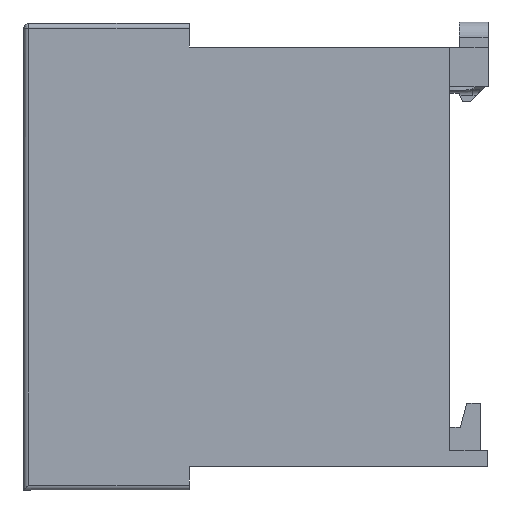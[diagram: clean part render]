
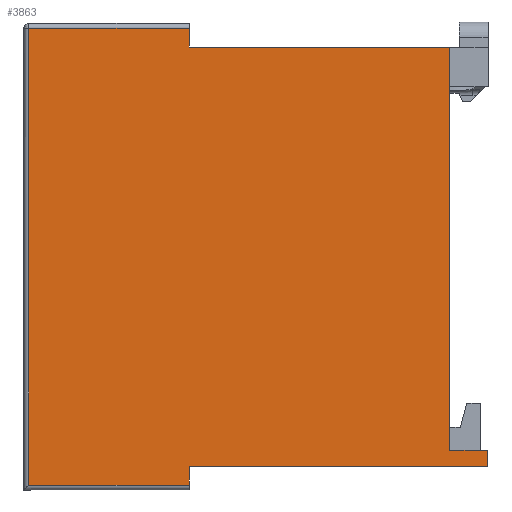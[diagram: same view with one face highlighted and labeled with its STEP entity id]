
A CAD part, left-side view. The second image highlights one B-rep face of the part: STEP entity #3863.
In plain terms, the highlighted planar face has unit normal (-1, 0, 0).
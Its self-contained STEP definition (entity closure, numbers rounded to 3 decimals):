
#169 = VECTOR ( 'NONE', #2971, 1000. ) ;
#378 = VERTEX_POINT ( 'NONE', #7387 ) ;
#460 = ORIENTED_EDGE ( 'NONE', *, *, #7679, .F. ) ;
#563 = LINE ( 'NONE', #1981, #3993 ) ;
#598 = ORIENTED_EDGE ( 'NONE', *, *, #1237, .F. ) ;
#699 = ORIENTED_EDGE ( 'NONE', *, *, #7192, .F. ) ;
#816 = VERTEX_POINT ( 'NONE', #6275 ) ;
#1005 = EDGE_LOOP ( 'NONE', ( #6417, #6036, #598, #2833, #5478, #7030, #460, #699, #7599, #6785 ) ) ;
#1083 = FACE_OUTER_BOUND ( 'NONE', #1005, .T. ) ;
#1237 = EDGE_CURVE ( 'NONE', #4079, #5180, #4899, .T. ) ;
#1260 = VECTOR ( 'NONE', #4289, 1000. ) ;
#1394 = DIRECTION ( 'NONE',  ( 0., 0., -1. ) ) ;
#1404 = DIRECTION ( 'NONE',  ( 1., 0., 0. ) ) ;
#1415 = CARTESIAN_POINT ( 'NONE',  ( -22.5, 17.609, -0.434 ) ) ;
#1420 = PLANE ( 'NONE',  #7845 ) ;
#1457 = VECTOR ( 'NONE', #4681, 1000. ) ;
#1709 = DIRECTION ( 'NONE',  ( 0., -1., 0. ) ) ;
#1790 = CARTESIAN_POINT ( 'NONE',  ( -22.5, 27.068, 21.65 ) ) ;
#1851 = VERTEX_POINT ( 'NONE', #4320 ) ;
#1880 = LINE ( 'NONE', #2991, #169 ) ;
#1968 = DIRECTION ( 'NONE',  ( 0., -1., 0. ) ) ;
#1975 = DIRECTION ( 'NONE',  ( 0., 1., 0. ) ) ;
#1977 = CARTESIAN_POINT ( 'NONE',  ( -22.5, 17.609, -23.9 ) ) ;
#1981 = CARTESIAN_POINT ( 'NONE',  ( -22.5, 17.609, -20.25 ) ) ;
#2087 = CARTESIAN_POINT ( 'NONE',  ( -22.5, 27.068, -23.9 ) ) ;
#2088 = VECTOR ( 'NONE', #1975, 1000. ) ;
#2294 = VECTOR ( 'NONE', #2390, 1000. ) ;
#2360 = CARTESIAN_POINT ( 'NONE',  ( -22.5, 17.609, 23.6 ) ) ;
#2390 = DIRECTION ( 'NONE',  ( 0., -1., 0. ) ) ;
#2833 = ORIENTED_EDGE ( 'NONE', *, *, #5781, .F. ) ;
#2971 = DIRECTION ( 'NONE',  ( 0., 0., -1. ) ) ;
#2991 = CARTESIAN_POINT ( 'NONE',  ( -22.5, 27.068, 24.1 ) ) ;
#3209 = LINE ( 'NONE', #5081, #1457 ) ;
#3388 = VERTEX_POINT ( 'NONE', #3737 ) ;
#3515 = EDGE_CURVE ( 'NONE', #3388, #816, #1880, .T. ) ;
#3670 = VERTEX_POINT ( 'NONE', #2087 ) ;
#3692 = DIRECTION ( 'NONE',  ( 0., 1., 0. ) ) ;
#3737 = CARTESIAN_POINT ( 'NONE',  ( -22.5, 27.068, 23.6 ) ) ;
#3778 = DIRECTION ( 'NONE',  ( 0., 0., -1. ) ) ;
#3863 = ADVANCED_FACE ( 'NONE', ( #1083 ), #1420, .F. ) ;
#3929 = CARTESIAN_POINT ( 'NONE',  ( -22.5, 0.668, -21.95 ) ) ;
#3972 = CARTESIAN_POINT ( 'NONE',  ( -22.5, 0., 16.84 ) ) ;
#3993 = VECTOR ( 'NONE', #1968, 1000. ) ;
#4070 = CARTESIAN_POINT ( 'NONE',  ( -22.5, -3.932, -21.95 ) ) ;
#4079 = VERTEX_POINT ( 'NONE', #7280 ) ;
#4112 = VERTEX_POINT ( 'NONE', #7279 ) ;
#4153 = CARTESIAN_POINT ( 'NONE',  ( -22.5, 27.068, -21.95 ) ) ;
#4289 = DIRECTION ( 'NONE',  ( 0., 0., -1. ) ) ;
#4320 = CARTESIAN_POINT ( 'NONE',  ( -22.5, 27.068, -21.95 ) ) ;
#4411 = VECTOR ( 'NONE', #3778, 1000. ) ;
#4556 = VERTEX_POINT ( 'NONE', #6002 ) ;
#4581 = LINE ( 'NONE', #3972, #4411 ) ;
#4681 = DIRECTION ( 'NONE',  ( 0., 0., -1. ) ) ;
#4706 = CARTESIAN_POINT ( 'NONE',  ( -22.5, 43.768, 23.6 ) ) ;
#4751 = VECTOR ( 'NONE', #3692, 1000. ) ;
#4899 = LINE ( 'NONE', #5488, #7824 ) ;
#5081 = CARTESIAN_POINT ( 'NONE',  ( -22.5, -3.932, -0.434 ) ) ;
#5180 = VERTEX_POINT ( 'NONE', #4706 ) ;
#5420 = DIRECTION ( 'NONE',  ( 0., 0., 1. ) ) ;
#5478 = ORIENTED_EDGE ( 'NONE', *, *, #7757, .F. ) ;
#5488 = CARTESIAN_POINT ( 'NONE',  ( -22.5, 43.768, -0.434 ) ) ;
#5737 = EDGE_CURVE ( 'NONE', #5180, #3388, #7205, .T. ) ;
#5781 = EDGE_CURVE ( 'NONE', #3670, #4079, #7256, .T. ) ;
#6002 = CARTESIAN_POINT ( 'NONE',  ( -22.5, 0., 21.65 ) ) ;
#6036 = ORIENTED_EDGE ( 'NONE', *, *, #5737, .F. ) ;
#6057 = LINE ( 'NONE', #4153, #1260 ) ;
#6275 = CARTESIAN_POINT ( 'NONE',  ( -22.5, 27.068, 21.65 ) ) ;
#6417 = ORIENTED_EDGE ( 'NONE', *, *, #3515, .F. ) ;
#6785 = ORIENTED_EDGE ( 'NONE', *, *, #7815, .F. ) ;
#7030 = ORIENTED_EDGE ( 'NONE', *, *, #7759, .F. ) ;
#7192 = EDGE_CURVE ( 'NONE', #4112, #378, #563, .T. ) ;
#7205 = LINE ( 'NONE', #2360, #2294 ) ;
#7256 = LINE ( 'NONE', #1977, #2088 ) ;
#7279 = CARTESIAN_POINT ( 'NONE',  ( -22.5, 0., -20.25 ) ) ;
#7280 = CARTESIAN_POINT ( 'NONE',  ( -22.5, 43.768, -23.9 ) ) ;
#7287 = VECTOR ( 'NONE', #1709, 1000. ) ;
#7387 = CARTESIAN_POINT ( 'NONE',  ( -22.5, -3.932, -20.25 ) ) ;
#7481 = LINE ( 'NONE', #1790, #7287 ) ;
#7599 = ORIENTED_EDGE ( 'NONE', *, *, #7767, .F. ) ;
#7661 = LINE ( 'NONE', #3929, #4751 ) ;
#7679 = EDGE_CURVE ( 'NONE', #378, #7750, #3209, .T. ) ;
#7750 = VERTEX_POINT ( 'NONE', #4070 ) ;
#7757 = EDGE_CURVE ( 'NONE', #1851, #3670, #6057, .T. ) ;
#7759 = EDGE_CURVE ( 'NONE', #7750, #1851, #7661, .T. ) ;
#7767 = EDGE_CURVE ( 'NONE', #4556, #4112, #4581, .T. ) ;
#7815 = EDGE_CURVE ( 'NONE', #816, #4556, #7481, .T. ) ;
#7824 = VECTOR ( 'NONE', #5420, 1000. ) ;
#7845 = AXIS2_PLACEMENT_3D ( 'NONE', #1415, #1404, #1394 ) ;
